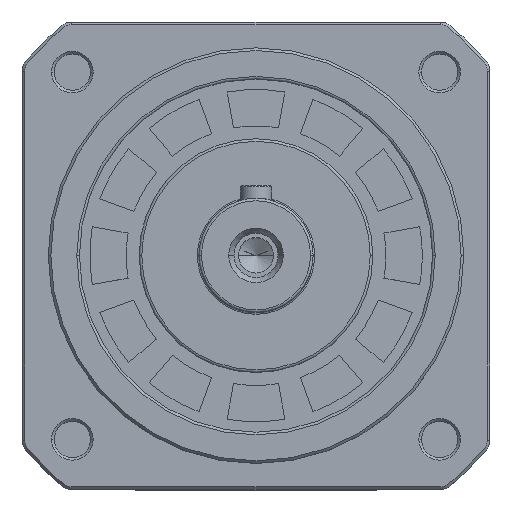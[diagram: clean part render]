
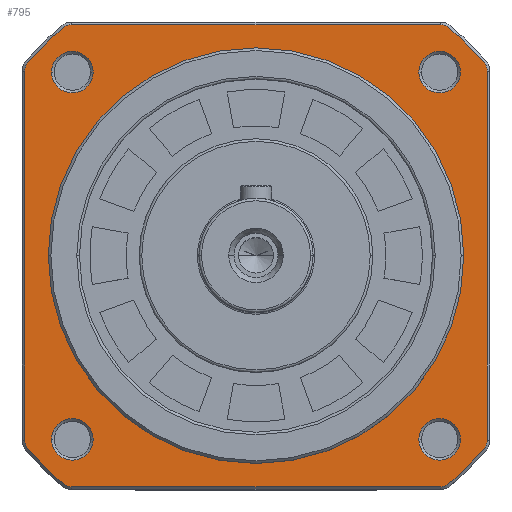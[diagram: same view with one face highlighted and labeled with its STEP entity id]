
A CAD part, top view. The second image highlights one B-rep face of the part: STEP entity #795.
In plain terms, the highlighted planar face has unit normal (0, 0, 1).
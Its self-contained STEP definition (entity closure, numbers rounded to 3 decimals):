
#264=FACE_BOUND('',#1873,.T.);
#265=FACE_BOUND('',#1874,.T.);
#266=FACE_BOUND('',#1875,.T.);
#267=FACE_BOUND('',#1876,.T.);
#268=FACE_BOUND('',#1877,.T.);
#269=FACE_BOUND('',#1878,.T.);
#446=PLANE('',#8277);
#795=ADVANCED_FACE('',(#264,#265,#266,#267,#268,#269),#446,.T.);
#1873=EDGE_LOOP('',(#4724,#4725,#4726,#4727,#4728,#4729,#4730,#4731,#4732,
#4733,#4734,#4735,#4736,#4737,#4738,#4739));
#1874=EDGE_LOOP('',(#4740,#4741));
#1875=EDGE_LOOP('',(#4742,#4743));
#1876=EDGE_LOOP('',(#4744,#4745));
#1877=EDGE_LOOP('',(#4746,#4747));
#1878=EDGE_LOOP('',(#4748,#4749));
#2518=LINE('',#12891,#3154);
#2519=LINE('',#12899,#3155);
#2520=LINE('',#12907,#3156);
#2521=LINE('',#12915,#3157);
#3154=VECTOR('',#10068,1.);
#3155=VECTOR('',#10075,1.);
#3156=VECTOR('',#10082,1.);
#3157=VECTOR('',#10089,1.);
#4724=ORIENTED_EDGE('',*,*,#7004,.T.);
#4725=ORIENTED_EDGE('',*,*,#7005,.T.);
#4726=ORIENTED_EDGE('',*,*,#7006,.T.);
#4727=ORIENTED_EDGE('',*,*,#7007,.T.);
#4728=ORIENTED_EDGE('',*,*,#7008,.T.);
#4729=ORIENTED_EDGE('',*,*,#7009,.T.);
#4730=ORIENTED_EDGE('',*,*,#7010,.T.);
#4731=ORIENTED_EDGE('',*,*,#7011,.T.);
#4732=ORIENTED_EDGE('',*,*,#7012,.T.);
#4733=ORIENTED_EDGE('',*,*,#7013,.T.);
#4734=ORIENTED_EDGE('',*,*,#7014,.T.);
#4735=ORIENTED_EDGE('',*,*,#7015,.T.);
#4736=ORIENTED_EDGE('',*,*,#7016,.T.);
#4737=ORIENTED_EDGE('',*,*,#7017,.T.);
#4738=ORIENTED_EDGE('',*,*,#7018,.T.);
#4739=ORIENTED_EDGE('',*,*,#7019,.T.);
#4740=ORIENTED_EDGE('',*,*,#6924,.T.);
#4741=ORIENTED_EDGE('',*,*,#7020,.T.);
#4742=ORIENTED_EDGE('',*,*,#6920,.T.);
#4743=ORIENTED_EDGE('',*,*,#7021,.T.);
#4744=ORIENTED_EDGE('',*,*,#6916,.T.);
#4745=ORIENTED_EDGE('',*,*,#7022,.T.);
#4746=ORIENTED_EDGE('',*,*,#6912,.T.);
#4747=ORIENTED_EDGE('',*,*,#7023,.T.);
#4748=ORIENTED_EDGE('',*,*,#6961,.F.);
#4749=ORIENTED_EDGE('',*,*,#7024,.F.);
#5980=VERTEX_POINT('',#12649);
#5981=VERTEX_POINT('',#12651);
#5984=VERTEX_POINT('',#12658);
#5985=VERTEX_POINT('',#12660);
#5988=VERTEX_POINT('',#12667);
#5989=VERTEX_POINT('',#12669);
#5992=VERTEX_POINT('',#12676);
#5993=VERTEX_POINT('',#12678);
#6024=VERTEX_POINT('',#12757);
#6025=VERTEX_POINT('',#12758);
#6061=VERTEX_POINT('',#12889);
#6062=VERTEX_POINT('',#12890);
#6063=VERTEX_POINT('',#12892);
#6064=VERTEX_POINT('',#12894);
#6065=VERTEX_POINT('',#12896);
#6066=VERTEX_POINT('',#12898);
#6067=VERTEX_POINT('',#12900);
#6068=VERTEX_POINT('',#12902);
#6069=VERTEX_POINT('',#12904);
#6070=VERTEX_POINT('',#12906);
#6071=VERTEX_POINT('',#12908);
#6072=VERTEX_POINT('',#12910);
#6073=VERTEX_POINT('',#12912);
#6074=VERTEX_POINT('',#12914);
#6075=VERTEX_POINT('',#12916);
#6076=VERTEX_POINT('',#12918);
#6912=EDGE_CURVE('',#5981,#5980,#7550,.T.);
#6916=EDGE_CURVE('',#5985,#5984,#7552,.T.);
#6920=EDGE_CURVE('',#5989,#5988,#7554,.T.);
#6924=EDGE_CURVE('',#5993,#5992,#7556,.T.);
#6961=EDGE_CURVE('',#6024,#6025,#7578,.T.);
#7004=EDGE_CURVE('',#6061,#6062,#7581,.T.);
#7005=EDGE_CURVE('',#6062,#6063,#2518,.T.);
#7006=EDGE_CURVE('',#6063,#6064,#7582,.T.);
#7007=EDGE_CURVE('',#6064,#6065,#7583,.T.);
#7008=EDGE_CURVE('',#6065,#6066,#7584,.T.);
#7009=EDGE_CURVE('',#6066,#6067,#2519,.T.);
#7010=EDGE_CURVE('',#6067,#6068,#7585,.T.);
#7011=EDGE_CURVE('',#6068,#6069,#7586,.T.);
#7012=EDGE_CURVE('',#6069,#6070,#7587,.T.);
#7013=EDGE_CURVE('',#6070,#6071,#2520,.T.);
#7014=EDGE_CURVE('',#6071,#6072,#7588,.T.);
#7015=EDGE_CURVE('',#6072,#6073,#7589,.T.);
#7016=EDGE_CURVE('',#6073,#6074,#7590,.T.);
#7017=EDGE_CURVE('',#6074,#6075,#2521,.T.);
#7018=EDGE_CURVE('',#6075,#6076,#7591,.T.);
#7019=EDGE_CURVE('',#6076,#6061,#7592,.T.);
#7020=EDGE_CURVE('',#5992,#5993,#7593,.T.);
#7021=EDGE_CURVE('',#5988,#5989,#7594,.T.);
#7022=EDGE_CURVE('',#5984,#5985,#7595,.T.);
#7023=EDGE_CURVE('',#5980,#5981,#7596,.T.);
#7024=EDGE_CURVE('',#6025,#6024,#7597,.T.);
#7550=CIRCLE('',#8208,4.);
#7552=CIRCLE('',#8211,4.);
#7554=CIRCLE('',#8214,4.);
#7556=CIRCLE('',#8217,4.);
#7578=CIRCLE('',#8250,40.);
#7581=CIRCLE('',#8260,2.5);
#7582=CIRCLE('',#8261,2.5);
#7583=CIRCLE('',#8262,57.5);
#7584=CIRCLE('',#8263,2.5);
#7585=CIRCLE('',#8264,2.5);
#7586=CIRCLE('',#8265,57.5);
#7587=CIRCLE('',#8266,2.5);
#7588=CIRCLE('',#8267,2.5);
#7589=CIRCLE('',#8268,57.5);
#7590=CIRCLE('',#8269,2.5);
#7591=CIRCLE('',#8270,2.5);
#7592=CIRCLE('',#8271,57.5);
#7593=CIRCLE('',#8272,4.);
#7594=CIRCLE('',#8273,4.);
#7595=CIRCLE('',#8274,4.);
#7596=CIRCLE('',#8275,4.);
#7597=CIRCLE('',#8276,40.);
#8208=AXIS2_PLACEMENT_3D('',#12650,#9903,#9904);
#8211=AXIS2_PLACEMENT_3D('',#12659,#9911,#9912);
#8214=AXIS2_PLACEMENT_3D('',#12668,#9919,#9920);
#8217=AXIS2_PLACEMENT_3D('',#12677,#9927,#9928);
#8250=AXIS2_PLACEMENT_3D('',#12756,#10008,#10009);
#8260=AXIS2_PLACEMENT_3D('',#12888,#10066,#10067);
#8261=AXIS2_PLACEMENT_3D('',#12893,#10069,#10070);
#8262=AXIS2_PLACEMENT_3D('',#12895,#10071,#10072);
#8263=AXIS2_PLACEMENT_3D('',#12897,#10073,#10074);
#8264=AXIS2_PLACEMENT_3D('',#12901,#10076,#10077);
#8265=AXIS2_PLACEMENT_3D('',#12903,#10078,#10079);
#8266=AXIS2_PLACEMENT_3D('',#12905,#10080,#10081);
#8267=AXIS2_PLACEMENT_3D('',#12909,#10083,#10084);
#8268=AXIS2_PLACEMENT_3D('',#12911,#10085,#10086);
#8269=AXIS2_PLACEMENT_3D('',#12913,#10087,#10088);
#8270=AXIS2_PLACEMENT_3D('',#12917,#10090,#10091);
#8271=AXIS2_PLACEMENT_3D('',#12919,#10092,#10093);
#8272=AXIS2_PLACEMENT_3D('',#12920,#10094,#10095);
#8273=AXIS2_PLACEMENT_3D('',#12921,#10096,#10097);
#8274=AXIS2_PLACEMENT_3D('',#12922,#10098,#10099);
#8275=AXIS2_PLACEMENT_3D('',#12923,#10100,#10101);
#8276=AXIS2_PLACEMENT_3D('',#12924,#10102,#10103);
#8277=AXIS2_PLACEMENT_3D('',#12925,#10104,#10105);
#9903=DIRECTION('',(0.,0.,-1.));
#9904=DIRECTION('',(1.,0.,0.));
#9911=DIRECTION('',(0.,0.,-1.));
#9912=DIRECTION('',(1.,0.,0.));
#9919=DIRECTION('',(0.,0.,-1.));
#9920=DIRECTION('',(1.,0.,0.));
#9927=DIRECTION('',(0.,0.,-1.));
#9928=DIRECTION('',(1.,0.,0.));
#10008=DIRECTION('',(0.,0.,1.));
#10009=DIRECTION('',(1.,0.,0.));
#10066=DIRECTION('',(0.,0.,1.));
#10067=DIRECTION('',(1.,0.,0.));
#10068=DIRECTION('',(0.,-1.,0.));
#10069=DIRECTION('',(0.,0.,1.));
#10070=DIRECTION('',(1.,0.,0.));
#10071=DIRECTION('',(0.,0.,1.));
#10072=DIRECTION('',(1.,0.,0.));
#10073=DIRECTION('',(0.,0.,1.));
#10074=DIRECTION('',(1.,0.,0.));
#10075=DIRECTION('',(1.,0.,0.));
#10076=DIRECTION('',(0.,0.,1.));
#10077=DIRECTION('',(1.,0.,0.));
#10078=DIRECTION('',(0.,0.,1.));
#10079=DIRECTION('',(1.,0.,0.));
#10080=DIRECTION('',(0.,0.,1.));
#10081=DIRECTION('',(1.,0.,0.));
#10082=DIRECTION('',(0.,1.,0.));
#10083=DIRECTION('',(0.,0.,1.));
#10084=DIRECTION('',(1.,0.,0.));
#10085=DIRECTION('',(0.,0.,1.));
#10086=DIRECTION('',(1.,0.,0.));
#10087=DIRECTION('',(0.,0.,1.));
#10088=DIRECTION('',(1.,0.,0.));
#10089=DIRECTION('',(-1.,0.,0.));
#10090=DIRECTION('',(0.,0.,1.));
#10091=DIRECTION('',(1.,0.,0.));
#10092=DIRECTION('',(0.,0.,1.));
#10093=DIRECTION('',(1.,0.,0.));
#10094=DIRECTION('',(0.,0.,-1.));
#10095=DIRECTION('',(1.,0.,0.));
#10096=DIRECTION('',(0.,0.,-1.));
#10097=DIRECTION('',(1.,0.,0.));
#10098=DIRECTION('',(0.,0.,-1.));
#10099=DIRECTION('',(1.,0.,0.));
#10100=DIRECTION('',(0.,0.,-1.));
#10101=DIRECTION('',(1.,0.,0.));
#10102=DIRECTION('',(0.,0.,1.));
#10103=DIRECTION('',(1.,0.,0.));
#10104=DIRECTION('',(0.,0.,1.));
#10105=DIRECTION('',(-1.,0.,0.));
#12649=CARTESIAN_POINT('',(31.355,35.355,48.5));
#12650=CARTESIAN_POINT('',(35.355,35.355,48.5));
#12651=CARTESIAN_POINT('',(39.355,35.355,48.5));
#12658=CARTESIAN_POINT('',(31.355,-35.355,48.5));
#12659=CARTESIAN_POINT('',(35.355,-35.355,48.5));
#12660=CARTESIAN_POINT('',(39.355,-35.355,48.5));
#12667=CARTESIAN_POINT('',(-39.355,-35.355,48.5));
#12668=CARTESIAN_POINT('',(-35.355,-35.355,48.5));
#12669=CARTESIAN_POINT('',(-31.355,-35.355,48.5));
#12676=CARTESIAN_POINT('',(-39.355,35.355,48.5));
#12677=CARTESIAN_POINT('',(-35.355,35.355,48.5));
#12678=CARTESIAN_POINT('',(-31.355,35.355,48.5));
#12756=CARTESIAN_POINT('',(0.,0.,48.5));
#12757=CARTESIAN_POINT('',(40.,0.,48.5));
#12758=CARTESIAN_POINT('',(-40.,0.,48.5));
#12888=CARTESIAN_POINT('',(-42.,35.511,48.5));
#12889=CARTESIAN_POINT('',(-43.909,37.125,48.5));
#12890=CARTESIAN_POINT('',(-44.5,35.511,48.5));
#12891=CARTESIAN_POINT('',(-44.5,-35.511,48.5));
#12892=CARTESIAN_POINT('',(-44.5,-35.511,48.5));
#12893=CARTESIAN_POINT('',(-42.,-35.511,48.5));
#12894=CARTESIAN_POINT('',(-43.909,-37.125,48.5));
#12895=CARTESIAN_POINT('',(0.,0.,48.5));
#12896=CARTESIAN_POINT('',(-37.125,-43.909,48.5));
#12897=CARTESIAN_POINT('',(-35.511,-42.,48.5));
#12898=CARTESIAN_POINT('',(-35.511,-44.5,48.5));
#12899=CARTESIAN_POINT('',(35.511,-44.5,48.5));
#12900=CARTESIAN_POINT('',(35.511,-44.5,48.5));
#12901=CARTESIAN_POINT('',(35.511,-42.,48.5));
#12902=CARTESIAN_POINT('',(37.125,-43.909,48.5));
#12903=CARTESIAN_POINT('',(0.,0.,48.5));
#12904=CARTESIAN_POINT('',(43.909,-37.125,48.5));
#12905=CARTESIAN_POINT('',(42.,-35.511,48.5));
#12906=CARTESIAN_POINT('',(44.5,-35.511,48.5));
#12907=CARTESIAN_POINT('',(44.5,35.511,48.5));
#12908=CARTESIAN_POINT('',(44.5,35.511,48.5));
#12909=CARTESIAN_POINT('',(42.,35.511,48.5));
#12910=CARTESIAN_POINT('',(43.909,37.125,48.5));
#12911=CARTESIAN_POINT('',(0.,0.,48.5));
#12912=CARTESIAN_POINT('',(37.125,43.909,48.5));
#12913=CARTESIAN_POINT('',(35.511,42.,48.5));
#12914=CARTESIAN_POINT('',(35.511,44.5,48.5));
#12915=CARTESIAN_POINT('',(-35.511,44.5,48.5));
#12916=CARTESIAN_POINT('',(-35.511,44.5,48.5));
#12917=CARTESIAN_POINT('',(-35.511,42.,48.5));
#12918=CARTESIAN_POINT('',(-37.125,43.909,48.5));
#12919=CARTESIAN_POINT('',(0.,0.,48.5));
#12920=CARTESIAN_POINT('',(-35.355,35.355,48.5));
#12921=CARTESIAN_POINT('',(-35.355,-35.355,48.5));
#12922=CARTESIAN_POINT('',(35.355,-35.355,48.5));
#12923=CARTESIAN_POINT('',(35.355,35.355,48.5));
#12924=CARTESIAN_POINT('',(0.,0.,48.5));
#12925=CARTESIAN_POINT('',(0.,0.,48.5));
